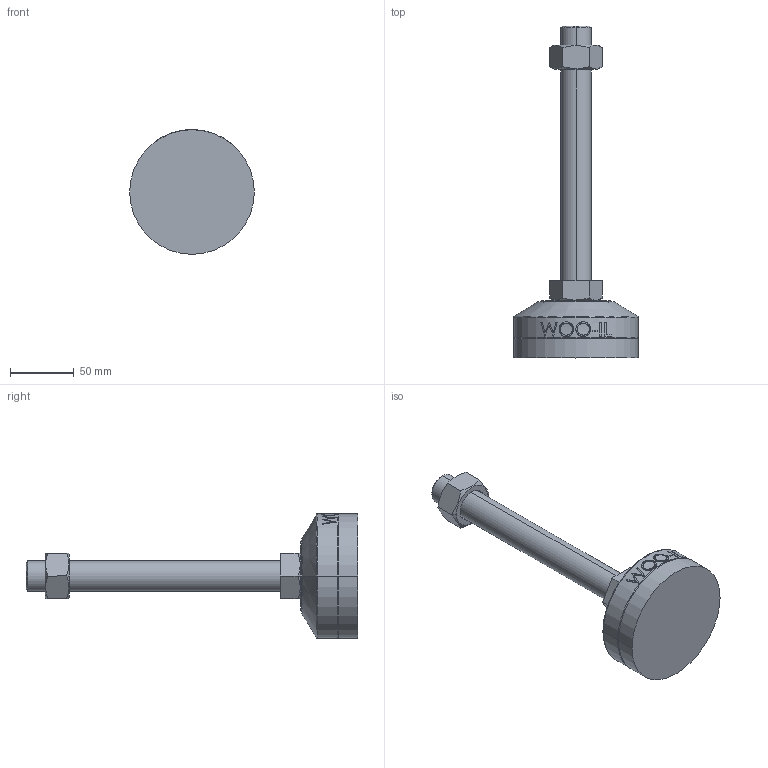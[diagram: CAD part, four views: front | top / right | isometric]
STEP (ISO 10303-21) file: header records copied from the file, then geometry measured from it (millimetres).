
FILE_DESCRIPTION (( 'STEP AP214' ), '1' );
FILE_NAME ('MFR98-M24-200.step', '2021-01-13T05:41:00', ( '' ), ( '' ), 'SwSTEP 2.0', 'SolidWorks 2019', '' );
FILE_SCHEMA (( 'AUTOMOTIVE_DESIGN' ));
Length unit declared in the file: millimetre
Products named in the file (2): MFR98-M24-200
Bounding box: 98 x 261 x 98 mm (x, y, z)
Volume: 425457.8 mm3; surface area: 65064.1 mm2
Topology: 4 solids, 4 shells, 103 faces, 235 edges, 150 vertices
Faces by surface type: plane 49, cylinder 18, bspline 16, cone 14, torus 6
Entity records: 4617 total; most frequent: CARTESIAN_POINT 2344, ORIENTED_EDGE 470, DIRECTION 417, EDGE_CURVE 235, AXIS2_PLACEMENT_3D 159, VERTEX_POINT 150, EDGE_LOOP 115, FACE_OUTER_BOUND 103
